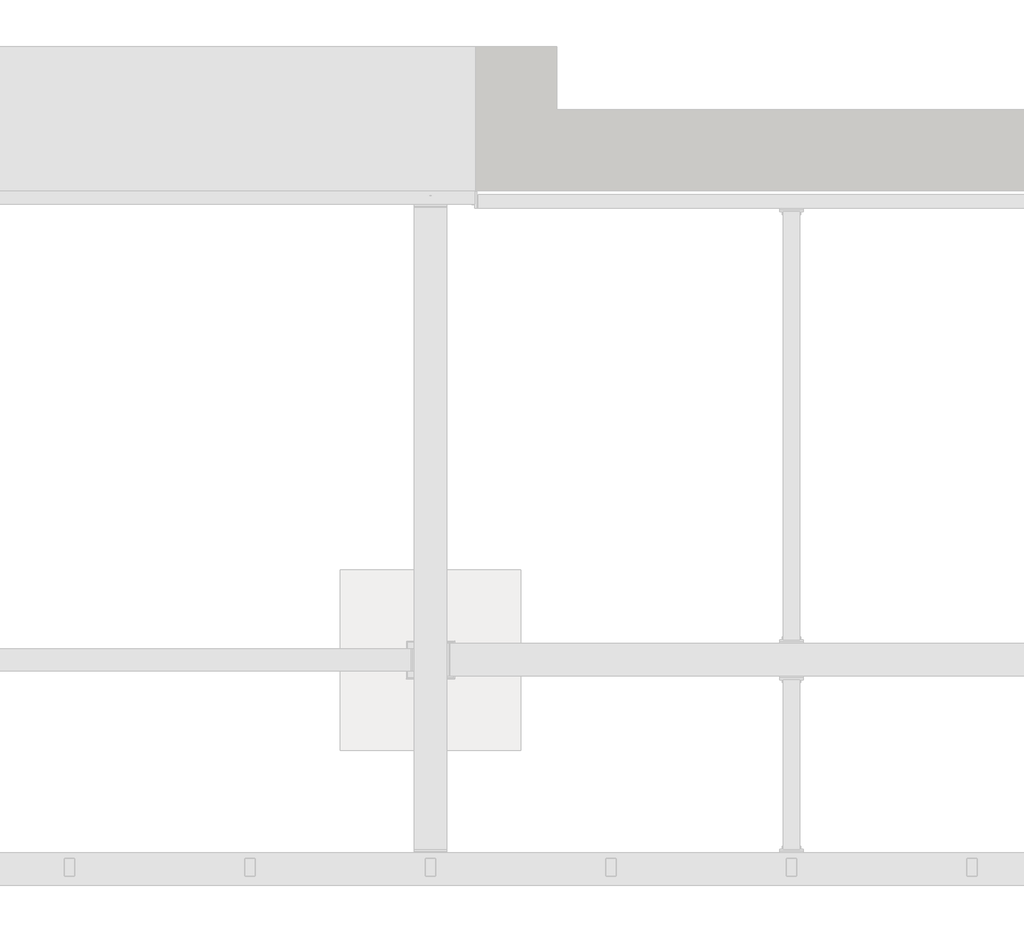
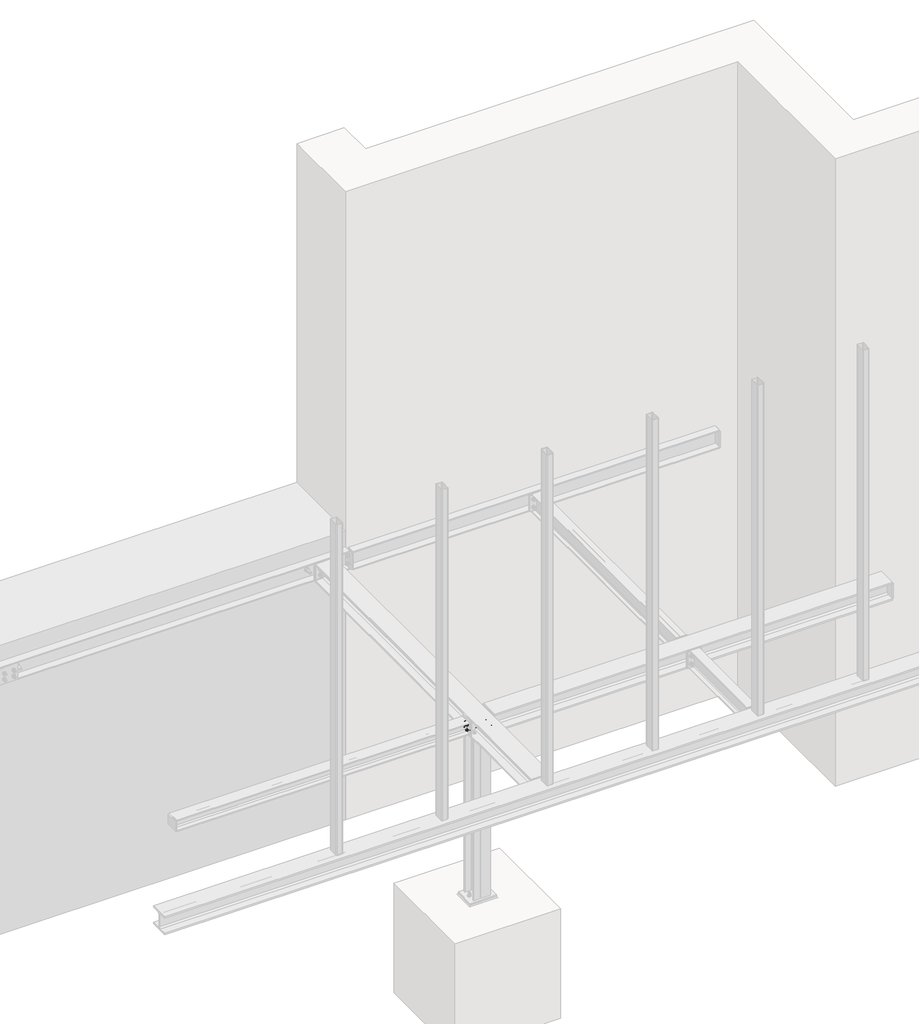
# One storey, part 26 of 31: 2 assemblies.
"""IFC4 building model written with IfcOpenShell, lengths in millimetres."""

import ifcopenshell
import ifcopenshell.guid

model = None  # the IFC model being written
_history = None  # IfcOwnerHistory: only IFC2X3 demands one
_inside = {}  # id of a spatial element -> (the spatial element, [elements in it])
_under = {}  # id of a project, library or spatial element -> (it, [spatial elements below it])
_declared = {}  # id of a project -> (the project, [libraries it declares])
_typed = {}  # id of a type object -> (the type object, [elements of that type])
_made_of = {}  # id of a material, layer set ... -> (it, [elements and type objects made of it])


def new_model(schema):
    """Start an empty IFC model of exactly this schema.

    Asked for "IFC4X3", IfcOpenShell would pick the latest addendum, in which some entities
    have other attributes; the version numbers below select the first issue.
    IFC2X3 requires an IfcOwnerHistory on every rooted entity: one is made here for all.
    """
    global model, _history
    if schema == "IFC4X3":
        model = ifcopenshell.file(schema_version=(4, 3, 0, 0))
    else:
        model = ifcopenshell.file(schema=schema)
    _inside.clear()
    _under.clear()
    _declared.clear()
    _typed.clear()
    _made_of.clear()
    _history = None
    if model.schema == "IFC2X3":
        org = make("IfcOrganization", Name="unknown")
        user = make(
            "IfcPersonAndOrganization",
            ThePerson=make("IfcPerson", FamilyName="unknown"),
            TheOrganization=org,
        )
        app = make(
            "IfcApplication",
            ApplicationDeveloper=org,
            Version="unknown",
            ApplicationFullName="unknown",
            ApplicationIdentifier="unknown",
        )
        _history = make(
            "IfcOwnerHistory",
            OwningUser=user,
            OwningApplication=app,
            ChangeAction="ADDED",
            CreationDate=0,
        )
    return model


def make(cls, **values):
    """One entity of the class cls with the attributes given. An attribute that is None is left unset."""
    return model.create_entity(
        cls, **{name: value for name, value in values.items() if value is not None}
    )


def rooted(cls, **values):
    """An entity with a GlobalId (a new one), such as an element, a storey or a relation."""
    return make(cls, GlobalId=ifcopenshell.guid.new(), OwnerHistory=_history, **values)


def si_unit(unit_type, name, prefix=None):
    """IfcSIUnit, for example si_unit("LENGTHUNIT", "METRE", prefix="MILLI")."""
    return make("IfcSIUnit", UnitType=unit_type, Prefix=prefix, Name=name)


def assignment(units):
    """IfcUnitAssignment: the units of a project."""
    return None if units is None else make("IfcUnitAssignment", Units=units)


def point(xyz):
    """IfcCartesianPoint."""
    return None if xyz is None else make("IfcCartesianPoint", Coordinates=xyz)


def direction(xyz):
    """IfcDirection."""
    return None if xyz is None else make("IfcDirection", DirectionRatios=xyz)


def frame(location, z_axis=None, x_axis=None):
    """IfcAxis2Placement3D, a coordinate frame: its origin and axes. An axis left out is left unset."""
    return make(
        "IfcAxis2Placement3D",
        Location=point(location),
        Axis=direction(z_axis),
        RefDirection=direction(x_axis),
    )


def frame_2d(location, x_axis=None):
    """IfcAxis2Placement2D, a coordinate frame in the plane: its origin and x axis."""
    return make(
        "IfcAxis2Placement2D", Location=point(location), RefDirection=direction(x_axis)
    )


def origin():
    """The frame at (0, 0, 0) with its axes left unset."""
    return frame((0.0, 0.0, 0.0))


def place(relative_to, where):
    """IfcLocalPlacement: puts the frame where relative to a parent placement (None: the world)."""
    return make(
        "IfcLocalPlacement", PlacementRelTo=relative_to, RelativePlacement=where
    )


def context(
    kind, dimensions, precision=None, world=None, true_north=None, identifier=None
):
    """IfcGeometricRepresentationContext, for example the 3D "Model" context."""
    return make(
        "IfcGeometricRepresentationContext",
        ContextIdentifier=identifier,
        ContextType=kind,
        CoordinateSpaceDimension=dimensions,
        Precision=precision,
        WorldCoordinateSystem=world,
        TrueNorth=true_north,
    )


def project(units=None, contexts=None):
    """IfcProject with its units and contexts."""
    return rooted(
        "IfcProject",
        Name="project",
        RepresentationContexts=contexts,
        UnitsInContext=assignment(units),
    )


def spatial(cls, under=None, at=None, **own):
    """A site, building, storey or space (cls), placed at a placement, below another one or the project."""
    s = rooted(cls, ObjectPlacement=at, **own)
    if under is not None:
        _under.setdefault(under.id(), (under, []))[1].append(s)
    return s


def polyline(points):
    """IfcPolyline through the points."""
    return make("IfcPolyline", Points=[point(p) for p in points])


def circle_curve(where, radius):
    """IfcCircle in the frame where."""
    return make("IfcCircle", Position=where, Radius=radius)


def trimmed(basis, trim1, trim2, sense, master):
    """IfcTrimmedCurve: the piece of a basis curve between two trims."""
    return make(
        "IfcTrimmedCurve",
        BasisCurve=basis,
        Trim1=trim1,
        Trim2=trim2,
        SenseAgreement=sense,
        MasterRepresentation=master,
    )


def segment(curve, same_sense, transition):
    """IfcCompositeCurveSegment."""
    return make(
        "IfcCompositeCurveSegment",
        Transition=transition,
        SameSense=same_sense,
        ParentCurve=curve,
    )


def composite_curve(segments, self_intersect=None):
    """IfcCompositeCurve: segments joined end to end."""
    return make("IfcCompositeCurve", Segments=segments, SelfIntersect=self_intersect)


def outline(outer, holes=None, kind="AREA"):
    """IfcArbitraryClosedProfileDef: a profile drawn as a closed curve; with holes, ...WithVoids."""
    if holes is None:
        return make("IfcArbitraryClosedProfileDef", ProfileType=kind, OuterCurve=outer)
    return make(
        "IfcArbitraryProfileDefWithVoids",
        ProfileType=kind,
        OuterCurve=outer,
        InnerCurves=holes,
    )


def extrude(swept, where, along, depth):
    """IfcExtrudedAreaSolid: the profile swept, set in the frame where, extruded along a direction by depth."""
    return make(
        "IfcExtrudedAreaSolid",
        SweptArea=swept,
        Position=where,
        ExtrudedDirection=direction(along),
        Depth=depth,
    )


def shape(context_of_items, identifier, shape_type, items):
    """IfcShapeRepresentation: the items that make up one representation, for example the "Body"."""
    return make(
        "IfcShapeRepresentation",
        ContextOfItems=context_of_items,
        RepresentationIdentifier=identifier,
        RepresentationType=shape_type,
        Items=items,
    )


def made_of(thing, what):
    """Note that an element or type object is made of a material, layer set ...; save() writes the relation."""
    if what is not None:
        _made_of.setdefault(what.id(), (what, []))[1].append(thing)
    return thing


def element(
    cls,
    number,
    at=None,
    inside=None,
    cuts=None,
    type_object=None,
    material=None,
    context=None,
    identifier="Body",
    shape_type=None,
    held_by="IfcProductDefinitionShape",
    body=None,
    shapes=None,
    **own,
):
    """One element of the class cls, such as IfcWall. Its Tag is "e" and its number.

    at: its placement. inside: the storey or other place that contains it. cuts: it is an
    opening in that element (IfcRelVoidsElement). A single representation is given by context,
    identifier, shape_type and body (its items); several are given by shapes. held_by: the class
    of the entity that holds the representations. save() writes the other relations.
    """
    e = rooted(cls, Tag="e%d" % number, ObjectPlacement=at, **own)
    if body is not None:
        shapes = [shape(context, identifier, shape_type, body)]
    if shapes is not None:
        e.Representation = make(held_by, Representations=shapes)
    if inside is not None:
        _inside.setdefault(inside.id(), (inside, []))[1].append(e)
    if cuts is not None:
        rooted(
            "IfcRelVoidsElement", RelatingBuildingElement=cuts, RelatedOpeningElement=e
        )
    if type_object is not None:
        _typed.setdefault(type_object.id(), (type_object, []))[1].append(e)
    return made_of(e, material)


def aggregate(whole, parts):
    """IfcRelAggregates: a whole, such as a stair, and the parts it consists of."""
    return rooted("IfcRelAggregates", RelatingObject=whole, RelatedObjects=parts)


def save(model, path):
    """Write the relations noted so far, then the file.

    IfcRelAggregates (storeys below a building ...), IfcRelContainedInSpatialStructure (elements
    in a storey), IfcRelDefinesByType, IfcRelAssociatesMaterial and IfcRelDeclares: one each for
    every whole, place, type object, material and project.
    """
    for whole, parts in _under.values():
        aggregate(whole, parts)
    for where, things in _inside.values():
        rooted(
            "IfcRelContainedInSpatialStructure",
            RelatedElements=things,
            RelatingStructure=where,
        )
    for kind, things in _typed.values():
        rooted("IfcRelDefinesByType", RelatedObjects=things, RelatingType=kind)
    for what, things in _made_of.values():
        rooted("IfcRelAssociatesMaterial", RelatedObjects=things, RelatingMaterial=what)
    for by, libraries in _declared.values():
        rooted("IfcRelDeclares", RelatingContext=by, RelatedDefinitions=libraries)
    model.write(path)


model = new_model("IFC4")

# Units and contexts
model_context = context("Model", 3, world=origin())
ifc_project = project(units=[si_unit("LENGTHUNIT", "METRE", prefix="MILLI")], contexts=[model_context])

# Site, building, storey
site = spatial("IfcSite", under=ifc_project)
building = spatial("IfcBuilding", under=site)
storey = spatial("IfcBuildingStorey", under=building, Name="Základy", Elevation=-1200.0)

# Assemblies
placement = place(None, origin())
element("IfcElementAssembly", 1, at=placement, inside=storey, context=model_context, shape_type="SweptSolid", body=[
    extrude(outline(composite_curve([segment(polyline([(13073.6, 60.0), (13026.4, 60.0)]), True, "CONTINUOUS"), segment(trimmed(circle_curve(frame_2d((13026.4, 66.4)), 6.4), [point((13026.4, 60.0))], [point((13020.0, 66.4))], False, "CARTESIAN"), True, "CONTINUOUS"), segment(polyline([(13020.0, 66.4), (13020.0, 153.6)]), True, "CONTINUOUS"), segment(trimmed(circle_curve(frame_2d((13026.4, 153.6)), 6.4), [point((13020.0, 153.6))], [point((13026.4, 160.0))], False, "CARTESIAN"), True, "CONTINUOUS"), segment(polyline([(13026.4, 160.0), (13073.6, 160.0)]), True, "CONTINUOUS"), segment(trimmed(circle_curve(frame_2d((13073.6, 153.6)), 6.4), [point((13073.6, 160.0))], [point((13080.0, 153.6))], False, "CARTESIAN"), True, "CONTINUOUS"), segment(polyline([(13080.0, 153.6), (13080.0, 66.4)]), True, "CONTINUOUS"), segment(trimmed(circle_curve(frame_2d((13073.6, 66.4)), 6.4), [point((13080.0, 66.4))], [point((13073.6, 60.0))], False, "CARTESIAN"), True, "CONTINUOUS")], self_intersect=False), holes=[composite_curve([segment(trimmed(circle_curve(frame_2d((13073.6, 66.4)), 3.2), [point((13073.6, 63.2))], [point((13076.8, 66.4))], True, "CARTESIAN"), True, "CONTINUOUS"), segment(polyline([(13076.8, 66.4), (13076.8, 153.6)]), True, "CONTINUOUS"), segment(trimmed(circle_curve(frame_2d((13073.6, 153.6)), 3.2), [point((13076.8, 153.6))], [point((13073.6, 156.8))], True, "CARTESIAN"), True, "CONTINUOUS"), segment(polyline([(13073.6, 156.8), (13026.4, 156.8)]), True, "CONTINUOUS"), segment(trimmed(circle_curve(frame_2d((13026.4, 153.6)), 3.2), [point((13026.4, 156.8))], [point((13023.2, 153.6))], True, "CARTESIAN"), True, "CONTINUOUS"), segment(polyline([(13023.2, 153.6), (13023.2, 66.4)]), True, "CONTINUOUS"), segment(trimmed(circle_curve(frame_2d((13026.4, 66.4)), 3.2), [point((13023.2, 66.4))], [point((13026.4, 63.2))], True, "CARTESIAN"), True, "CONTINUOUS"), segment(polyline([(13026.4, 63.2), (13073.6, 63.2)]), True, "CONTINUOUS")], self_intersect=False)]), frame((0.0, 0.0, -160.0), z_axis=(0.0, 0.0, 1.0), x_axis=(1.0, 0.0, 0.0)), (0.0, 0.0, 1.0), 3320.0),
])
element("IfcElementAssembly", 2, at=placement, inside=storey, context=model_context, shape_type="SweptSolid", body=[
    extrude(outline(composite_curve([segment(polyline([(-340.0, 12140.0), (-326.0, 12140.0), (-326.0, 12069.25)]), True, "CONTINUOUS"), segment(trimmed(circle_curve(frame_2d((-311.0, 12069.25)), 15.0), [point((-326.0, 12069.25))], [point((-311.0, 12054.25))], True, "CARTESIAN"), True, "CONTINUOUS"), segment(polyline([(-311.0, 12054.25), (-189.0, 12054.25)]), True, "CONTINUOUS"), segment(trimmed(circle_curve(frame_2d((-189.0, 12069.25)), 15.0), [point((-189.0, 12054.25))], [point((-174.0, 12069.25))], True, "CARTESIAN"), True, "CONTINUOUS"), segment(polyline([(-174.0, 12069.25), (-174.0, 12140.0), (-160.0, 12140.0), (-160.0, 11960.0), (-174.0, 11960.0), (-174.0, 12030.75)]), True, "CONTINUOUS"), segment(trimmed(circle_curve(frame_2d((-189.0, 12030.75)), 15.0), [point((-174.0, 12030.75))], [point((-189.0, 12045.75))], True, "CARTESIAN"), True, "CONTINUOUS"), segment(polyline([(-189.0, 12045.75), (-311.0, 12045.75)]), True, "CONTINUOUS"), segment(trimmed(circle_curve(frame_2d((-311.0, 12030.75)), 15.0), [point((-311.0, 12045.75))], [point((-326.0, 12030.75))], True, "CARTESIAN"), True, "CONTINUOUS"), segment(polyline([(-326.0, 12030.75), (-326.0, 11960.0), (-340.0, 11960.0), (-340.0, 12140.0)]), True, "CONTINUOUS")], self_intersect=False)), frame((0.0, 210.0, 0.0), z_axis=(0.0, 1.0, 0.0), x_axis=(0.0, 0.0, 1.0)), (0.0, 0.0, 1.0), 3557.0),
    extrude(outline(polyline([(11960.0, 3775.0), (12140.0, 3775.0), (12140.0, 3767.0), (11960.0, 3767.0), (11960.0, 3775.0)])), frame((0.0, 0.0, -316.0), z_axis=(0.0, 0.0, 1.0), x_axis=(1.0, 0.0, 0.0)), (0.0, 0.0, 1.0), 132.0),
    extrude(outline(polyline([(11950.0, 1200.0), (11950.0, 1320.0), (11960.0, 1320.0), (11960.0, 1200.0), (11950.0, 1200.0)])), frame((0.0, 0.0, -332.0), z_axis=(0.0, 0.0, 1.0), x_axis=(1.0, 0.0, 0.0)), (0.0, 0.0, 1.0), 164.0),
    extrude(outline(polyline([(12140.0, 1170.0), (12140.0, 1350.0), (12150.0, 1350.0), (12150.0, 1170.0), (12140.0, 1170.0)])), frame((0.0, 0.0, -332.0), z_axis=(0.0, 0.0, 1.0), x_axis=(1.0, 0.0, 0.0)), (0.0, 0.0, 1.0), 164.0),
    extrude(outline(composite_curve([segment(polyline([(-174.0, 12140.0), (-174.0, 12079.5)]), True, "CONTINUOUS"), segment(trimmed(circle_curve(frame_2d((-174.0, 12054.5)), 25.0), [point((-174.0, 12079.5))], [point((-199.0, 12054.5))], True, "CARTESIAN"), True, "CONTINUOUS"), segment(polyline([(-199.0, 12054.5), (-301.0, 12054.5)]), True, "CONTINUOUS"), segment(trimmed(circle_curve(frame_2d((-326.0, 12054.5)), 25.0), [point((-301.0, 12054.5))], [point((-326.0, 12079.5))], True, "CARTESIAN"), True, "CONTINUOUS"), segment(polyline([(-326.0, 12079.5), (-326.0, 12140.0), (-174.0, 12140.0)]), True, "CONTINUOUS")], self_intersect=False)), frame((0.0, 1256.0, 0.0), z_axis=(0.0, 1.0, 0.0), x_axis=(0.0, 0.0, 1.0)), (0.0, 0.0, 1.0), 8.0),
    extrude(outline(composite_curve([segment(polyline([(-174.0, 11960.0), (-326.0, 11960.0), (-326.0, 12020.5)]), True, "CONTINUOUS"), segment(trimmed(circle_curve(frame_2d((-326.0, 12045.5)), 25.0), [point((-326.0, 12020.5))], [point((-301.0, 12045.5))], True, "CARTESIAN"), True, "CONTINUOUS"), segment(polyline([(-301.0, 12045.5), (-199.0, 12045.5)]), True, "CONTINUOUS"), segment(trimmed(circle_curve(frame_2d((-174.0, 12045.5)), 25.0), [point((-199.0, 12045.5))], [point((-174.0, 12020.5))], True, "CARTESIAN"), True, "CONTINUOUS"), segment(polyline([(-174.0, 12020.5), (-174.0, 11960.0)]), True, "CONTINUOUS")], self_intersect=False)), frame((0.0, 1256.0, 0.0), z_axis=(0.0, 1.0, 0.0), x_axis=(0.0, 0.0, 1.0)), (0.0, 0.0, 1.0), 8.0),
    extrude(outline(polyline([(11960.0, 210.0), (12140.0, 210.0), (12140.0, 200.0), (11960.0, 200.0), (11960.0, 210.0)])), frame((0.0, 0.0, -332.0), z_axis=(0.0, 0.0, 1.0), x_axis=(1.0, 0.0, 0.0)), (0.0, 0.0, 1.0), 164.0),
    extrude(outline(composite_curve([segment(trimmed(circle_curve(frame_2d((1230.0, -225.0)), 6.5), [point((1230.0, -231.5))], [point((1230.0, -218.5))], False, "CARTESIAN"), True, "CONTINUOUS"), segment(trimmed(circle_curve(frame_2d((1230.0, -225.0)), 6.5), [point((1230.0, -218.5))], [point((1230.0, -231.5))], False, "CARTESIAN"), True, "CONTINUOUS")], self_intersect=False)), frame((11949.9, 0.0, 0.0), z_axis=(1.0, 0.0, 0.0), x_axis=(0.0, 1.0, 0.0)), (0.0, 0.0, 1.0), 10.0),
    extrude(outline(polyline([(1230.0, -235.3923048), (1221.0, -230.1961524), (1221.0, -219.8038476), (1230.0, -214.6076952), (1239.0, -219.8038476), (1239.0, -230.1961524), (1230.0, -235.3923048)])), frame((11962.5, 0.0, 0.0), z_axis=(1.0, 0.0, 0.0), x_axis=(0.0, 1.0, 0.0)), (0.0, 0.0, 1.0), 7.5),
    extrude(outline(composite_curve([segment(trimmed(circle_curve(frame_2d((1230.0, -225.0)), 6.0), [point((1230.0, -231.0))], [point((1230.0, -219.0))], False, "CARTESIAN"), True, "CONTINUOUS"), segment(trimmed(circle_curve(frame_2d((1230.0, -225.0)), 6.0), [point((1230.0, -219.0))], [point((1230.0, -231.0))], False, "CARTESIAN"), True, "CONTINUOUS")], self_intersect=False)), frame((11922.5, 0.0, 0.0), z_axis=(1.0, 0.0, 0.0), x_axis=(0.0, 1.0, 0.0)), (0.0, 0.0, 1.0), 40.0),
    extrude(outline(composite_curve([segment(trimmed(circle_curve(frame_2d((1230.0, -225.0)), 12.0), [point((1230.0, -237.0))], [point((1230.0, -213.0))], False, "CARTESIAN"), True, "CONTINUOUS"), segment(trimmed(circle_curve(frame_2d((1230.0, -225.0)), 12.0), [point((1230.0, -213.0))], [point((1230.0, -237.0))], False, "CARTESIAN"), True, "CONTINUOUS")], self_intersect=False)), frame((11960.0, 0.0, 0.0), z_axis=(1.0, 0.0, 0.0), x_axis=(0.0, 1.0, 0.0)), (0.0, 0.0, 1.0), 2.5),
    extrude(outline(composite_curve([segment(trimmed(circle_curve(frame_2d((1230.0, -225.0)), 12.0), [point((1230.0, -237.0))], [point((1230.0, -213.0))], False, "CARTESIAN"), True, "CONTINUOUS"), segment(trimmed(circle_curve(frame_2d((1230.0, -225.0)), 12.0), [point((1230.0, -213.0))], [point((1230.0, -237.0))], False, "CARTESIAN"), True, "CONTINUOUS")], self_intersect=False)), frame((11937.5, 0.0, 0.0), z_axis=(1.0, 0.0, 0.0), x_axis=(0.0, 1.0, 0.0)), (0.0, 0.0, 1.0), 2.5),
    extrude(outline(polyline([(1230.0, -235.9696551), (1220.5, -230.4848276), (1220.5, -219.5151724), (1230.0, -214.0303449), (1239.5, -219.5151724), (1239.5, -230.4848276), (1230.0, -235.9696551)])), frame((11927.5, 0.0, 0.0), z_axis=(1.0, 0.0, 0.0), x_axis=(0.0, 1.0, 0.0)), (0.0, 0.0, 1.0), 10.0),
    extrude(outline(composite_curve([segment(trimmed(circle_curve(frame_2d((1230.0, -225.0)), 6.5), [point((1230.0, -231.5))], [point((1230.0, -218.5))], False, "CARTESIAN"), True, "CONTINUOUS"), segment(trimmed(circle_curve(frame_2d((1230.0, -225.0)), 6.5), [point((1230.0, -218.5))], [point((1230.0, -231.5))], False, "CARTESIAN"), True, "CONTINUOUS")], self_intersect=False)), frame((11940.0, 0.0, 0.0), z_axis=(1.0, 0.0, 0.0), x_axis=(0.0, 1.0, 0.0)), (0.0, 0.0, 1.0), 10.1),
    extrude(outline(composite_curve([segment(trimmed(circle_curve(frame_2d((1230.0, -275.0)), 6.5), [point((1230.0, -281.5))], [point((1230.0, -268.5))], False, "CARTESIAN"), True, "CONTINUOUS"), segment(trimmed(circle_curve(frame_2d((1230.0, -275.0)), 6.5), [point((1230.0, -268.5))], [point((1230.0, -281.5))], False, "CARTESIAN"), True, "CONTINUOUS")], self_intersect=False)), frame((11949.9, 0.0, 0.0), z_axis=(1.0, 0.0, 0.0), x_axis=(0.0, 1.0, 0.0)), (0.0, 0.0, 1.0), 10.0),
    extrude(outline(polyline([(1230.0, -285.3923048), (1221.0, -280.1961524), (1221.0, -269.8038476), (1230.0, -264.6076952), (1239.0, -269.8038476), (1239.0, -280.1961524), (1230.0, -285.3923048)])), frame((11962.5, 0.0, 0.0), z_axis=(1.0, 0.0, 0.0), x_axis=(0.0, 1.0, 0.0)), (0.0, 0.0, 1.0), 7.5),
    extrude(outline(composite_curve([segment(trimmed(circle_curve(frame_2d((1230.0, -275.0)), 6.0), [point((1230.0, -281.0))], [point((1230.0, -269.0))], False, "CARTESIAN"), True, "CONTINUOUS"), segment(trimmed(circle_curve(frame_2d((1230.0, -275.0)), 6.0), [point((1230.0, -269.0))], [point((1230.0, -281.0))], False, "CARTESIAN"), True, "CONTINUOUS")], self_intersect=False)), frame((11922.5, 0.0, 0.0), z_axis=(1.0, 0.0, 0.0), x_axis=(0.0, 1.0, 0.0)), (0.0, 0.0, 1.0), 40.0),
    extrude(outline(composite_curve([segment(trimmed(circle_curve(frame_2d((1230.0, -275.0)), 12.0), [point((1230.0, -287.0))], [point((1230.0, -263.0))], False, "CARTESIAN"), True, "CONTINUOUS"), segment(trimmed(circle_curve(frame_2d((1230.0, -275.0)), 12.0), [point((1230.0, -263.0))], [point((1230.0, -287.0))], False, "CARTESIAN"), True, "CONTINUOUS")], self_intersect=False)), frame((11960.0, 0.0, 0.0), z_axis=(1.0, 0.0, 0.0), x_axis=(0.0, 1.0, 0.0)), (0.0, 0.0, 1.0), 2.5),
    extrude(outline(composite_curve([segment(trimmed(circle_curve(frame_2d((1230.0, -275.0)), 12.0), [point((1230.0, -287.0))], [point((1230.0, -263.0))], False, "CARTESIAN"), True, "CONTINUOUS"), segment(trimmed(circle_curve(frame_2d((1230.0, -275.0)), 12.0), [point((1230.0, -263.0))], [point((1230.0, -287.0))], False, "CARTESIAN"), True, "CONTINUOUS")], self_intersect=False)), frame((11937.5, 0.0, 0.0), z_axis=(1.0, 0.0, 0.0), x_axis=(0.0, 1.0, 0.0)), (0.0, 0.0, 1.0), 2.5),
    extrude(outline(polyline([(1230.0, -285.9696551), (1220.5, -280.4848276), (1220.5, -269.5151724), (1230.0, -264.0303449), (1239.5, -269.5151724), (1239.5, -280.4848276), (1230.0, -285.9696551)])), frame((11927.5, 0.0, 0.0), z_axis=(1.0, 0.0, 0.0), x_axis=(0.0, 1.0, 0.0)), (0.0, 0.0, 1.0), 10.0),
    extrude(outline(composite_curve([segment(trimmed(circle_curve(frame_2d((1230.0, -275.0)), 6.5), [point((1230.0, -281.5))], [point((1230.0, -268.5))], False, "CARTESIAN"), True, "CONTINUOUS"), segment(trimmed(circle_curve(frame_2d((1230.0, -275.0)), 6.5), [point((1230.0, -268.5))], [point((1230.0, -281.5))], False, "CARTESIAN"), True, "CONTINUOUS")], self_intersect=False)), frame((11940.0, 0.0, 0.0), z_axis=(1.0, 0.0, 0.0), x_axis=(0.0, 1.0, 0.0)), (0.0, 0.0, 1.0), 10.1),
    extrude(outline(composite_curve([segment(trimmed(circle_curve(frame_2d((1290.0, -225.0)), 6.5), [point((1290.0, -231.5))], [point((1290.0, -218.5))], False, "CARTESIAN"), True, "CONTINUOUS"), segment(trimmed(circle_curve(frame_2d((1290.0, -225.0)), 6.5), [point((1290.0, -218.5))], [point((1290.0, -231.5))], False, "CARTESIAN"), True, "CONTINUOUS")], self_intersect=False)), frame((11949.9, 0.0, 0.0), z_axis=(1.0, 0.0, 0.0), x_axis=(0.0, 1.0, 0.0)), (0.0, 0.0, 1.0), 10.0),
    extrude(outline(polyline([(1290.0, -235.3923048), (1281.0, -230.1961524), (1281.0, -219.8038476), (1290.0, -214.6076952), (1299.0, -219.8038476), (1299.0, -230.1961524), (1290.0, -235.3923048)])), frame((11962.5, 0.0, 0.0), z_axis=(1.0, 0.0, 0.0), x_axis=(0.0, 1.0, 0.0)), (0.0, 0.0, 1.0), 7.5),
    extrude(outline(composite_curve([segment(trimmed(circle_curve(frame_2d((1290.0, -225.0)), 6.0), [point((1290.0, -231.0))], [point((1290.0, -219.0))], False, "CARTESIAN"), True, "CONTINUOUS"), segment(trimmed(circle_curve(frame_2d((1290.0, -225.0)), 6.0), [point((1290.0, -219.0))], [point((1290.0, -231.0))], False, "CARTESIAN"), True, "CONTINUOUS")], self_intersect=False)), frame((11922.5, 0.0, 0.0), z_axis=(1.0, 0.0, 0.0), x_axis=(0.0, 1.0, 0.0)), (0.0, 0.0, 1.0), 40.0),
    extrude(outline(composite_curve([segment(trimmed(circle_curve(frame_2d((1290.0, -225.0)), 12.0), [point((1290.0, -237.0))], [point((1290.0, -213.0))], False, "CARTESIAN"), True, "CONTINUOUS"), segment(trimmed(circle_curve(frame_2d((1290.0, -225.0)), 12.0), [point((1290.0, -213.0))], [point((1290.0, -237.0))], False, "CARTESIAN"), True, "CONTINUOUS")], self_intersect=False)), frame((11960.0, 0.0, 0.0), z_axis=(1.0, 0.0, 0.0), x_axis=(0.0, 1.0, 0.0)), (0.0, 0.0, 1.0), 2.5),
    extrude(outline(composite_curve([segment(trimmed(circle_curve(frame_2d((1290.0, -225.0)), 12.0), [point((1290.0, -237.0))], [point((1290.0, -213.0))], False, "CARTESIAN"), True, "CONTINUOUS"), segment(trimmed(circle_curve(frame_2d((1290.0, -225.0)), 12.0), [point((1290.0, -213.0))], [point((1290.0, -237.0))], False, "CARTESIAN"), True, "CONTINUOUS")], self_intersect=False)), frame((11937.5, 0.0, 0.0), z_axis=(1.0, 0.0, 0.0), x_axis=(0.0, 1.0, 0.0)), (0.0, 0.0, 1.0), 2.5),
    extrude(outline(polyline([(1290.0, -235.9696551), (1280.5, -230.4848276), (1280.5, -219.5151724), (1290.0, -214.0303449), (1299.5, -219.5151724), (1299.5, -230.4848276), (1290.0, -235.9696551)])), frame((11927.5, 0.0, 0.0), z_axis=(1.0, 0.0, 0.0), x_axis=(0.0, 1.0, 0.0)), (0.0, 0.0, 1.0), 10.0),
    extrude(outline(composite_curve([segment(trimmed(circle_curve(frame_2d((1290.0, -225.0)), 6.5), [point((1290.0, -231.5))], [point((1290.0, -218.5))], False, "CARTESIAN"), True, "CONTINUOUS"), segment(trimmed(circle_curve(frame_2d((1290.0, -225.0)), 6.5), [point((1290.0, -218.5))], [point((1290.0, -231.5))], False, "CARTESIAN"), True, "CONTINUOUS")], self_intersect=False)), frame((11940.0, 0.0, 0.0), z_axis=(1.0, 0.0, 0.0), x_axis=(0.0, 1.0, 0.0)), (0.0, 0.0, 1.0), 10.1),
    extrude(outline(composite_curve([segment(trimmed(circle_curve(frame_2d((1290.0, -275.0)), 6.5), [point((1290.0, -281.5))], [point((1290.0, -268.5))], False, "CARTESIAN"), True, "CONTINUOUS"), segment(trimmed(circle_curve(frame_2d((1290.0, -275.0)), 6.5), [point((1290.0, -268.5))], [point((1290.0, -281.5))], False, "CARTESIAN"), True, "CONTINUOUS")], self_intersect=False)), frame((11949.9, 0.0, 0.0), z_axis=(1.0, 0.0, 0.0), x_axis=(0.0, 1.0, 0.0)), (0.0, 0.0, 1.0), 10.0),
    extrude(outline(polyline([(1290.0, -285.3923048), (1281.0, -280.1961524), (1281.0, -269.8038476), (1290.0, -264.6076952), (1299.0, -269.8038476), (1299.0, -280.1961524), (1290.0, -285.3923048)])), frame((11962.5, 0.0, 0.0), z_axis=(1.0, 0.0, 0.0), x_axis=(0.0, 1.0, 0.0)), (0.0, 0.0, 1.0), 7.5),
    extrude(outline(composite_curve([segment(trimmed(circle_curve(frame_2d((1290.0, -275.0)), 6.0), [point((1290.0, -281.0))], [point((1290.0, -269.0))], False, "CARTESIAN"), True, "CONTINUOUS"), segment(trimmed(circle_curve(frame_2d((1290.0, -275.0)), 6.0), [point((1290.0, -269.0))], [point((1290.0, -281.0))], False, "CARTESIAN"), True, "CONTINUOUS")], self_intersect=False)), frame((11922.5, 0.0, 0.0), z_axis=(1.0, 0.0, 0.0), x_axis=(0.0, 1.0, 0.0)), (0.0, 0.0, 1.0), 40.0),
    extrude(outline(composite_curve([segment(trimmed(circle_curve(frame_2d((1290.0, -275.0)), 12.0), [point((1290.0, -287.0))], [point((1290.0, -263.0))], False, "CARTESIAN"), True, "CONTINUOUS"), segment(trimmed(circle_curve(frame_2d((1290.0, -275.0)), 12.0), [point((1290.0, -263.0))], [point((1290.0, -287.0))], False, "CARTESIAN"), True, "CONTINUOUS")], self_intersect=False)), frame((11960.0, 0.0, 0.0), z_axis=(1.0, 0.0, 0.0), x_axis=(0.0, 1.0, 0.0)), (0.0, 0.0, 1.0), 2.5),
    extrude(outline(composite_curve([segment(trimmed(circle_curve(frame_2d((1290.0, -275.0)), 12.0), [point((1290.0, -287.0))], [point((1290.0, -263.0))], False, "CARTESIAN"), True, "CONTINUOUS"), segment(trimmed(circle_curve(frame_2d((1290.0, -275.0)), 12.0), [point((1290.0, -263.0))], [point((1290.0, -287.0))], False, "CARTESIAN"), True, "CONTINUOUS")], self_intersect=False)), frame((11937.5, 0.0, 0.0), z_axis=(1.0, 0.0, 0.0), x_axis=(0.0, 1.0, 0.0)), (0.0, 0.0, 1.0), 2.5),
    extrude(outline(polyline([(1290.0, -285.9696551), (1280.5, -280.4848276), (1280.5, -269.5151724), (1290.0, -264.0303449), (1299.5, -269.5151724), (1299.5, -280.4848276), (1290.0, -285.9696551)])), frame((11927.5, 0.0, 0.0), z_axis=(1.0, 0.0, 0.0), x_axis=(0.0, 1.0, 0.0)), (0.0, 0.0, 1.0), 10.0),
    extrude(outline(composite_curve([segment(trimmed(circle_curve(frame_2d((1290.0, -275.0)), 6.5), [point((1290.0, -281.5))], [point((1290.0, -268.5))], False, "CARTESIAN"), True, "CONTINUOUS"), segment(trimmed(circle_curve(frame_2d((1290.0, -275.0)), 6.5), [point((1290.0, -268.5))], [point((1290.0, -281.5))], False, "CARTESIAN"), True, "CONTINUOUS")], self_intersect=False)), frame((11940.0, 0.0, 0.0), z_axis=(1.0, 0.0, 0.0), x_axis=(0.0, 1.0, 0.0)), (0.0, 0.0, 1.0), 10.1),
    extrude(outline(composite_curve([segment(trimmed(circle_curve(frame_2d((1305.0, -210.0)), 8.5), [point((1305.0, -218.5))], [point((1305.0, -201.5))], False, "CARTESIAN"), True, "CONTINUOUS"), segment(trimmed(circle_curve(frame_2d((1305.0, -210.0)), 8.5), [point((1305.0, -201.5))], [point((1305.0, -218.5))], False, "CARTESIAN"), True, "CONTINUOUS")], self_intersect=False)), frame((12140.1, 0.0, 0.0), z_axis=(1.0, 0.0, 0.0), x_axis=(0.0, 1.0, 0.0)), (0.0, 0.0, 1.0), 10.0),
    extrude(outline(polyline([(1305.0, -223.8564065), (1293.0, -216.9282032), (1293.0, -203.0717968), (1305.0, -196.1435935), (1317.0, -203.0717968), (1317.0, -216.9282032), (1305.0, -223.8564065)])), frame((12127.0, 0.0, 0.0), z_axis=(1.0, 0.0, 0.0), x_axis=(0.0, 1.0, 0.0)), (0.0, 0.0, 1.0), 10.0),
    extrude(outline(composite_curve([segment(trimmed(circle_curve(frame_2d((1305.0, -210.0)), 8.0), [point((1305.0, -218.0))], [point((1305.0, -202.0))], False, "CARTESIAN"), True, "CONTINUOUS"), segment(trimmed(circle_curve(frame_2d((1305.0, -210.0)), 8.0), [point((1305.0, -202.0))], [point((1305.0, -218.0))], False, "CARTESIAN"), True, "CONTINUOUS")], self_intersect=False)), frame((12137.0, 0.0, 0.0), z_axis=(1.0, 0.0, 0.0), x_axis=(0.0, 1.0, 0.0)), (0.0, 0.0, 1.0), 45.0),
    extrude(outline(composite_curve([segment(trimmed(circle_curve(frame_2d((1305.0, -210.0)), 15.0), [point((1305.0, -225.0))], [point((1305.0, -195.0))], False, "CARTESIAN"), True, "CONTINUOUS"), segment(trimmed(circle_curve(frame_2d((1305.0, -210.0)), 15.0), [point((1305.0, -195.0))], [point((1305.0, -225.0))], False, "CARTESIAN"), True, "CONTINUOUS")], self_intersect=False)), frame((12137.0, 0.0, 0.0), z_axis=(1.0, 0.0, 0.0), x_axis=(0.0, 1.0, 0.0)), (0.0, 0.0, 1.0), 3.0),
    extrude(outline(composite_curve([segment(trimmed(circle_curve(frame_2d((1305.0, -210.0)), 15.0), [point((1305.0, -225.0))], [point((1305.0, -195.0))], False, "CARTESIAN"), True, "CONTINUOUS"), segment(trimmed(circle_curve(frame_2d((1305.0, -210.0)), 15.0), [point((1305.0, -195.0))], [point((1305.0, -225.0))], False, "CARTESIAN"), True, "CONTINUOUS")], self_intersect=False)), frame((12160.0, 0.0, 0.0), z_axis=(1.0, 0.0, 0.0), x_axis=(0.0, 1.0, 0.0)), (0.0, 0.0, 1.0), 3.0),
    extrude(outline(polyline([(1305.0, -225.4441197), (1291.625, -217.7220599), (1291.625, -202.2779401), (1305.0, -194.5558803), (1318.375, -202.2779401), (1318.375, -217.7220599), (1305.0, -225.4441197)])), frame((12163.0, 0.0, 0.0), z_axis=(1.0, 0.0, 0.0), x_axis=(0.0, 1.0, 0.0)), (0.0, 0.0, 1.0), 13.0),
    extrude(outline(composite_curve([segment(trimmed(circle_curve(frame_2d((1305.0, -210.0)), 8.5), [point((1305.0, -218.5))], [point((1305.0, -201.5))], False, "CARTESIAN"), True, "CONTINUOUS"), segment(trimmed(circle_curve(frame_2d((1305.0, -210.0)), 8.5), [point((1305.0, -201.5))], [point((1305.0, -218.5))], False, "CARTESIAN"), True, "CONTINUOUS")], self_intersect=False)), frame((12149.9, 0.0, 0.0), z_axis=(1.0, 0.0, 0.0), x_axis=(0.0, 1.0, 0.0)), (0.0, 0.0, 1.0), 10.1),
    extrude(outline(composite_curve([segment(trimmed(circle_curve(frame_2d((1305.0, -290.0)), 8.5), [point((1305.0, -298.5))], [point((1305.0, -281.5))], False, "CARTESIAN"), True, "CONTINUOUS"), segment(trimmed(circle_curve(frame_2d((1305.0, -290.0)), 8.5), [point((1305.0, -281.5))], [point((1305.0, -298.5))], False, "CARTESIAN"), True, "CONTINUOUS")], self_intersect=False)), frame((12140.1, 0.0, 0.0), z_axis=(1.0, 0.0, 0.0), x_axis=(0.0, 1.0, 0.0)), (0.0, 0.0, 1.0), 10.0),
    extrude(outline(polyline([(1305.0, -303.8564065), (1293.0, -296.9282032), (1293.0, -283.0717968), (1305.0, -276.1435935), (1317.0, -283.0717968), (1317.0, -296.9282032), (1305.0, -303.8564065)])), frame((12127.0, 0.0, 0.0), z_axis=(1.0, 0.0, 0.0), x_axis=(0.0, 1.0, 0.0)), (0.0, 0.0, 1.0), 10.0),
    extrude(outline(composite_curve([segment(trimmed(circle_curve(frame_2d((1305.0, -290.0)), 8.0), [point((1305.0, -298.0))], [point((1305.0, -282.0))], False, "CARTESIAN"), True, "CONTINUOUS"), segment(trimmed(circle_curve(frame_2d((1305.0, -290.0)), 8.0), [point((1305.0, -282.0))], [point((1305.0, -298.0))], False, "CARTESIAN"), True, "CONTINUOUS")], self_intersect=False)), frame((12137.0, 0.0, 0.0), z_axis=(1.0, 0.0, 0.0), x_axis=(0.0, 1.0, 0.0)), (0.0, 0.0, 1.0), 45.0),
    extrude(outline(composite_curve([segment(trimmed(circle_curve(frame_2d((1305.0, -290.0)), 15.0), [point((1305.0, -305.0))], [point((1305.0, -275.0))], False, "CARTESIAN"), True, "CONTINUOUS"), segment(trimmed(circle_curve(frame_2d((1305.0, -290.0)), 15.0), [point((1305.0, -275.0))], [point((1305.0, -305.0))], False, "CARTESIAN"), True, "CONTINUOUS")], self_intersect=False)), frame((12137.0, 0.0, 0.0), z_axis=(1.0, 0.0, 0.0), x_axis=(0.0, 1.0, 0.0)), (0.0, 0.0, 1.0), 3.0),
    extrude(outline(composite_curve([segment(trimmed(circle_curve(frame_2d((1305.0, -290.0)), 15.0), [point((1305.0, -305.0))], [point((1305.0, -275.0))], False, "CARTESIAN"), True, "CONTINUOUS"), segment(trimmed(circle_curve(frame_2d((1305.0, -290.0)), 15.0), [point((1305.0, -275.0))], [point((1305.0, -305.0))], False, "CARTESIAN"), True, "CONTINUOUS")], self_intersect=False)), frame((12160.0, 0.0, 0.0), z_axis=(1.0, 0.0, 0.0), x_axis=(0.0, 1.0, 0.0)), (0.0, 0.0, 1.0), 3.0),
    extrude(outline(polyline([(1305.0, -305.4441197), (1291.625, -297.7220599), (1291.625, -282.2779401), (1305.0, -274.5558803), (1318.375, -282.2779401), (1318.375, -297.7220599), (1305.0, -305.4441197)])), frame((12163.0, 0.0, 0.0), z_axis=(1.0, 0.0, 0.0), x_axis=(0.0, 1.0, 0.0)), (0.0, 0.0, 1.0), 13.0),
    extrude(outline(composite_curve([segment(trimmed(circle_curve(frame_2d((1305.0, -290.0)), 8.5), [point((1305.0, -298.5))], [point((1305.0, -281.5))], False, "CARTESIAN"), True, "CONTINUOUS"), segment(trimmed(circle_curve(frame_2d((1305.0, -290.0)), 8.5), [point((1305.0, -281.5))], [point((1305.0, -298.5))], False, "CARTESIAN"), True, "CONTINUOUS")], self_intersect=False)), frame((12149.9, 0.0, 0.0), z_axis=(1.0, 0.0, 0.0), x_axis=(0.0, 1.0, 0.0)), (0.0, 0.0, 1.0), 10.1),
    extrude(outline(composite_curve([segment(trimmed(circle_curve(frame_2d((1215.0, -210.0)), 8.5), [point((1215.0, -218.5))], [point((1215.0, -201.5))], False, "CARTESIAN"), True, "CONTINUOUS"), segment(trimmed(circle_curve(frame_2d((1215.0, -210.0)), 8.5), [point((1215.0, -201.5))], [point((1215.0, -218.5))], False, "CARTESIAN"), True, "CONTINUOUS")], self_intersect=False)), frame((12140.1, 0.0, 0.0), z_axis=(1.0, 0.0, 0.0), x_axis=(0.0, 1.0, 0.0)), (0.0, 0.0, 1.0), 10.0),
    extrude(outline(polyline([(1215.0, -223.8564065), (1203.0, -216.9282032), (1203.0, -203.0717968), (1215.0, -196.1435935), (1227.0, -203.0717968), (1227.0, -216.9282032), (1215.0, -223.8564065)])), frame((12127.0, 0.0, 0.0), z_axis=(1.0, 0.0, 0.0), x_axis=(0.0, 1.0, 0.0)), (0.0, 0.0, 1.0), 10.0),
    extrude(outline(composite_curve([segment(trimmed(circle_curve(frame_2d((1215.0, -210.0)), 8.0), [point((1215.0, -218.0))], [point((1215.0, -202.0))], False, "CARTESIAN"), True, "CONTINUOUS"), segment(trimmed(circle_curve(frame_2d((1215.0, -210.0)), 8.0), [point((1215.0, -202.0))], [point((1215.0, -218.0))], False, "CARTESIAN"), True, "CONTINUOUS")], self_intersect=False)), frame((12137.0, 0.0, 0.0), z_axis=(1.0, 0.0, 0.0), x_axis=(0.0, 1.0, 0.0)), (0.0, 0.0, 1.0), 45.0),
    extrude(outline(composite_curve([segment(trimmed(circle_curve(frame_2d((1215.0, -210.0)), 15.0), [point((1215.0, -225.0))], [point((1215.0, -195.0))], False, "CARTESIAN"), True, "CONTINUOUS"), segment(trimmed(circle_curve(frame_2d((1215.0, -210.0)), 15.0), [point((1215.0, -195.0))], [point((1215.0, -225.0))], False, "CARTESIAN"), True, "CONTINUOUS")], self_intersect=False)), frame((12137.0, 0.0, 0.0), z_axis=(1.0, 0.0, 0.0), x_axis=(0.0, 1.0, 0.0)), (0.0, 0.0, 1.0), 3.0),
    extrude(outline(composite_curve([segment(trimmed(circle_curve(frame_2d((1215.0, -210.0)), 15.0), [point((1215.0, -225.0))], [point((1215.0, -195.0))], False, "CARTESIAN"), True, "CONTINUOUS"), segment(trimmed(circle_curve(frame_2d((1215.0, -210.0)), 15.0), [point((1215.0, -195.0))], [point((1215.0, -225.0))], False, "CARTESIAN"), True, "CONTINUOUS")], self_intersect=False)), frame((12160.0, 0.0, 0.0), z_axis=(1.0, 0.0, 0.0), x_axis=(0.0, 1.0, 0.0)), (0.0, 0.0, 1.0), 3.0),
    extrude(outline(polyline([(1215.0, -225.4441197), (1201.625, -217.7220599), (1201.625, -202.2779401), (1215.0, -194.5558803), (1228.375, -202.2779401), (1228.375, -217.7220599), (1215.0, -225.4441197)])), frame((12163.0, 0.0, 0.0), z_axis=(1.0, 0.0, 0.0), x_axis=(0.0, 1.0, 0.0)), (0.0, 0.0, 1.0), 13.0),
    extrude(outline(composite_curve([segment(trimmed(circle_curve(frame_2d((1215.0, -210.0)), 8.5), [point((1215.0, -218.5))], [point((1215.0, -201.5))], False, "CARTESIAN"), True, "CONTINUOUS"), segment(trimmed(circle_curve(frame_2d((1215.0, -210.0)), 8.5), [point((1215.0, -201.5))], [point((1215.0, -218.5))], False, "CARTESIAN"), True, "CONTINUOUS")], self_intersect=False)), frame((12149.9, 0.0, 0.0), z_axis=(1.0, 0.0, 0.0), x_axis=(0.0, 1.0, 0.0)), (0.0, 0.0, 1.0), 10.1),
    extrude(outline(composite_curve([segment(trimmed(circle_curve(frame_2d((1215.0, -290.0)), 8.5), [point((1215.0, -298.5))], [point((1215.0, -281.5))], False, "CARTESIAN"), True, "CONTINUOUS"), segment(trimmed(circle_curve(frame_2d((1215.0, -290.0)), 8.5), [point((1215.0, -281.5))], [point((1215.0, -298.5))], False, "CARTESIAN"), True, "CONTINUOUS")], self_intersect=False)), frame((12140.1, 0.0, 0.0), z_axis=(1.0, 0.0, 0.0), x_axis=(0.0, 1.0, 0.0)), (0.0, 0.0, 1.0), 10.0),
    extrude(outline(polyline([(1215.0, -303.8564065), (1203.0, -296.9282032), (1203.0, -283.0717968), (1215.0, -276.1435935), (1227.0, -283.0717968), (1227.0, -296.9282032), (1215.0, -303.8564065)])), frame((12127.0, 0.0, 0.0), z_axis=(1.0, 0.0, 0.0), x_axis=(0.0, 1.0, 0.0)), (0.0, 0.0, 1.0), 10.0),
    extrude(outline(composite_curve([segment(trimmed(circle_curve(frame_2d((1215.0, -290.0)), 8.0), [point((1215.0, -298.0))], [point((1215.0, -282.0))], False, "CARTESIAN"), True, "CONTINUOUS"), segment(trimmed(circle_curve(frame_2d((1215.0, -290.0)), 8.0), [point((1215.0, -282.0))], [point((1215.0, -298.0))], False, "CARTESIAN"), True, "CONTINUOUS")], self_intersect=False)), frame((12137.0, 0.0, 0.0), z_axis=(1.0, 0.0, 0.0), x_axis=(0.0, 1.0, 0.0)), (0.0, 0.0, 1.0), 45.0),
    extrude(outline(composite_curve([segment(trimmed(circle_curve(frame_2d((1215.0, -290.0)), 15.0), [point((1215.0, -305.0))], [point((1215.0, -275.0))], False, "CARTESIAN"), True, "CONTINUOUS"), segment(trimmed(circle_curve(frame_2d((1215.0, -290.0)), 15.0), [point((1215.0, -275.0))], [point((1215.0, -305.0))], False, "CARTESIAN"), True, "CONTINUOUS")], self_intersect=False)), frame((12137.0, 0.0, 0.0), z_axis=(1.0, 0.0, 0.0), x_axis=(0.0, 1.0, 0.0)), (0.0, 0.0, 1.0), 3.0),
    extrude(outline(composite_curve([segment(trimmed(circle_curve(frame_2d((1215.0, -290.0)), 15.0), [point((1215.0, -305.0))], [point((1215.0, -275.0))], False, "CARTESIAN"), True, "CONTINUOUS"), segment(trimmed(circle_curve(frame_2d((1215.0, -290.0)), 15.0), [point((1215.0, -275.0))], [point((1215.0, -305.0))], False, "CARTESIAN"), True, "CONTINUOUS")], self_intersect=False)), frame((12160.0, 0.0, 0.0), z_axis=(1.0, 0.0, 0.0), x_axis=(0.0, 1.0, 0.0)), (0.0, 0.0, 1.0), 3.0),
    extrude(outline(polyline([(1215.0, -305.4441197), (1201.625, -297.7220599), (1201.625, -282.2779401), (1215.0, -274.5558803), (1228.375, -282.2779401), (1228.375, -297.7220599), (1215.0, -305.4441197)])), frame((12163.0, 0.0, 0.0), z_axis=(1.0, 0.0, 0.0), x_axis=(0.0, 1.0, 0.0)), (0.0, 0.0, 1.0), 13.0),
    extrude(outline(composite_curve([segment(trimmed(circle_curve(frame_2d((1215.0, -290.0)), 8.5), [point((1215.0, -298.5))], [point((1215.0, -281.5))], False, "CARTESIAN"), True, "CONTINUOUS"), segment(trimmed(circle_curve(frame_2d((1215.0, -290.0)), 8.5), [point((1215.0, -281.5))], [point((1215.0, -298.5))], False, "CARTESIAN"), True, "CONTINUOUS")], self_intersect=False)), frame((12149.9, 0.0, 0.0), z_axis=(1.0, 0.0, 0.0), x_axis=(0.0, 1.0, 0.0)), (0.0, 0.0, 1.0), 10.1),
])

save(model, "model.ifc")
